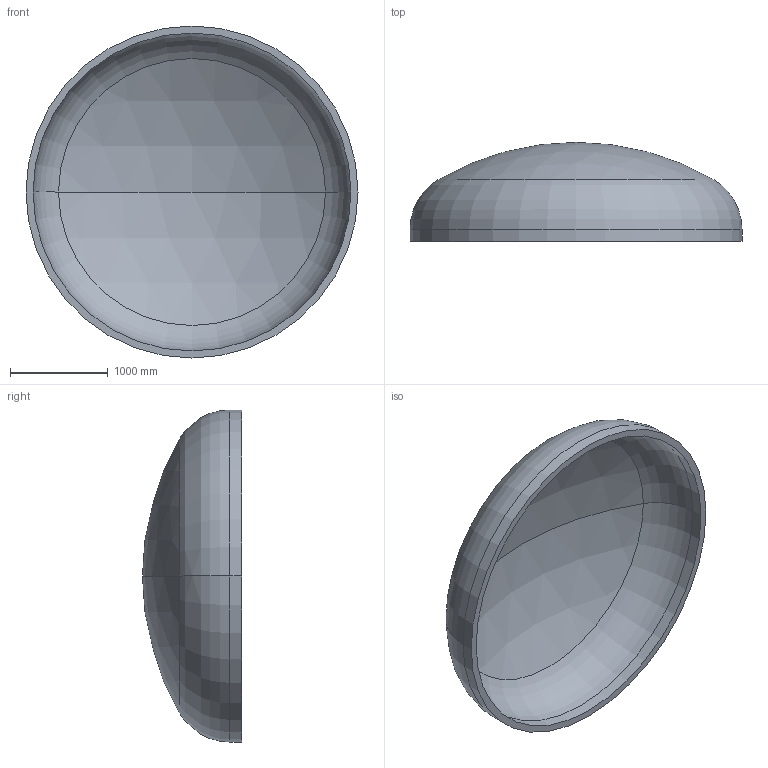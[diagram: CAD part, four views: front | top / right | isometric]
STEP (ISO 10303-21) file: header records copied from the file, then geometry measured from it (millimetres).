
FILE_DESCRIPTION (( 'STEP AP203' ), '1' );
FILE_NAME ('DIN 28013 Korbbogenform_-_Boden DIN 28013 - 3400 x 120 - I - s=72.step', '2016-07-01T19:43:13', ( '' ), ( '' ), 'SwSTEP 2.0', 'SolidWorks 2013', '' );
FILE_SCHEMA (( 'CONFIG_CONTROL_DESIGN' ));
Length unit declared in the file: millimetre
Products named in the file (1): DIN 28013 Korbbogenform_-_Boden DIN 28013 - 3400 x 120 - I - s=72
Bounding box: 3400 x 1014.26 x 3400 mm (x, y, z)
Volume: 971298311.9 mm3; surface area: 27744132.7 mm2
Topology: 1 solids, 1 shells, 13 faces, 24 edges, 14 vertices
Faces by surface type: torus 4, cylinder 4, sphere 4, plane 1
Entity records: 407 total; most frequent: DIRECTION 72, CARTESIAN_POINT 52, ORIENTED_EDGE 48, AXIS2_PLACEMENT_3D 34, EDGE_CURVE 24, CIRCLE 20, VERTEX_POINT 14, EDGE_LOOP 14
